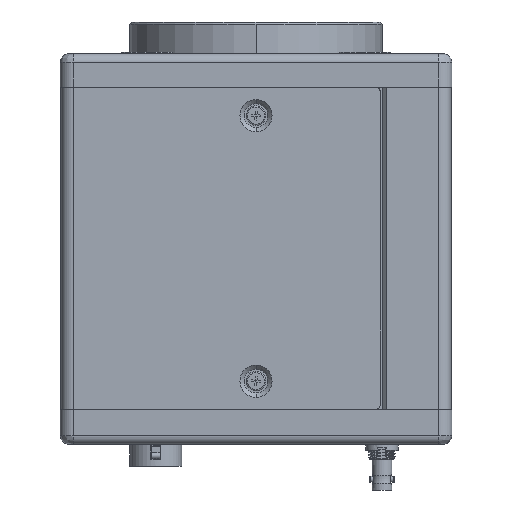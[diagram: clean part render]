
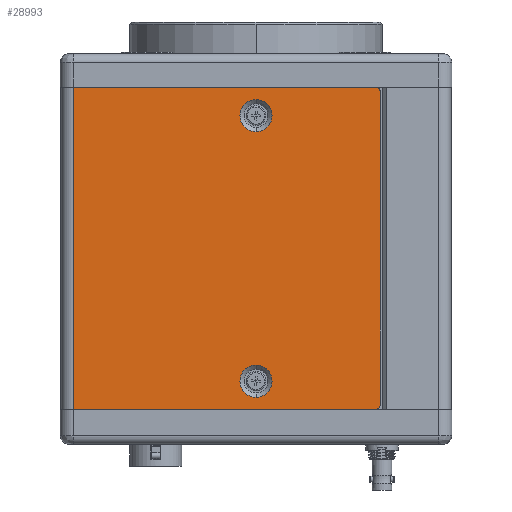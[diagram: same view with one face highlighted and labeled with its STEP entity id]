
A CAD part, left-side view. The second image highlights one B-rep face of the part: STEP entity #28993.
In plain terms, the highlighted planar face has unit normal (-1, 0, 0).
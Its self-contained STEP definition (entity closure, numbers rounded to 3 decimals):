
#6237=DIRECTION('',(0.,0.,-1.));
#6238=VECTOR('',#6237,74.);
#6239=CARTESIAN_POINT('',(-44.8,42.,82.));
#6240=LINE('',#6239,#6238);
#6245=CARTESIAN_POINT('',(-44.8,-27.5,9.));
#6246=DIRECTION('',(1.,0.,0.));
#6247=DIRECTION('',(0.,-1.,0.));
#6248=AXIS2_PLACEMENT_3D('',#6245,#6246,#6247);
#6250=DIRECTION('',(0.,1.,0.));
#6251=VECTOR('',#6250,69.5);
#6252=CARTESIAN_POINT('',(-44.8,-27.5,8.));
#6253=LINE('',#6252,#6251);
#6254=DIRECTION('',(0.,-1.,0.));
#6255=VECTOR('',#6254,69.5);
#6256=CARTESIAN_POINT('',(-44.8,42.,82.));
#6257=LINE('',#6256,#6255);
#6258=CARTESIAN_POINT('',(-44.8,-27.5,81.));
#6259=DIRECTION('',(1.,0.,0.));
#6260=DIRECTION('',(0.,0.,1.));
#6261=AXIS2_PLACEMENT_3D('',#6258,#6259,#6260);
#6263=CARTESIAN_POINT('',(-44.8,0.,75.5));
#6264=DIRECTION('',(-1.,0.,0.));
#6265=DIRECTION('',(0.,0.,1.));
#6266=AXIS2_PLACEMENT_3D('',#6263,#6264,#6265);
#6268=CARTESIAN_POINT('',(-44.8,0.,75.5));
#6269=DIRECTION('',(-1.,0.,0.));
#6270=DIRECTION('',(0.,0.,-1.));
#6271=AXIS2_PLACEMENT_3D('',#6268,#6269,#6270);
#6273=CARTESIAN_POINT('',(-44.8,0.,14.5));
#6274=DIRECTION('',(-1.,0.,0.));
#6275=DIRECTION('',(0.,0.,1.));
#6276=AXIS2_PLACEMENT_3D('',#6273,#6274,#6275);
#6278=CARTESIAN_POINT('',(-44.8,0.,14.5));
#6279=DIRECTION('',(-1.,0.,0.));
#6280=DIRECTION('',(0.,0.,-1.));
#6281=AXIS2_PLACEMENT_3D('',#6278,#6279,#6280);
#6291=DIRECTION('',(0.,0.,-1.));
#6292=VECTOR('',#6291,72.);
#6293=CARTESIAN_POINT('',(-44.8,-28.5,81.));
#6294=LINE('',#6293,#6292);
#16442=CARTESIAN_POINT('',(-44.8,42.,82.));
#16443=VERTEX_POINT('',#16442);
#16444=CARTESIAN_POINT('',(-44.8,-27.5,82.));
#16445=VERTEX_POINT('',#16444);
#16498=CARTESIAN_POINT('',(-44.8,42.,8.));
#16499=VERTEX_POINT('',#16498);
#16500=CARTESIAN_POINT('',(-44.8,-27.5,8.));
#16501=VERTEX_POINT('',#16500);
#16506=CARTESIAN_POINT('',(-44.8,-28.5,9.));
#16507=VERTEX_POINT('',#16506);
#16508=CARTESIAN_POINT('',(-44.8,-28.5,81.));
#16509=VERTEX_POINT('',#16508);
#16510=CARTESIAN_POINT('',(-44.8,0.,79.2));
#16511=CARTESIAN_POINT('',(-44.8,0.,71.8));
#16512=VERTEX_POINT('',#16510);
#16513=VERTEX_POINT('',#16511);
#16514=CARTESIAN_POINT('',(-44.8,0.,18.2));
#16515=CARTESIAN_POINT('',(-44.8,0.,10.8));
#16516=VERTEX_POINT('',#16514);
#16517=VERTEX_POINT('',#16515);
#28965=CARTESIAN_POINT('',(-44.8,6.75,45.));
#28966=DIRECTION('',(1.,0.,0.));
#28967=DIRECTION('',(0.,1.,0.));
#28968=AXIS2_PLACEMENT_3D('',#28965,#28966,#28967);
#28969=PLANE('',#28968);
#28971=ORIENTED_EDGE('',*,*,#28970,.T.);
#28972=ORIENTED_EDGE('',*,*,#18576,.T.);
#28973=ORIENTED_EDGE('',*,*,#28950,.F.);
#28974=ORIENTED_EDGE('',*,*,#18666,.T.);
#28976=ORIENTED_EDGE('',*,*,#28975,.T.);
#28978=ORIENTED_EDGE('',*,*,#28977,.T.);
#28979=EDGE_LOOP('',(#28971,#28972,#28973,#28974,#28976,#28978));
#28980=FACE_OUTER_BOUND('',#28979,.F.);
#28982=ORIENTED_EDGE('',*,*,#28981,.T.);
#28984=ORIENTED_EDGE('',*,*,#28983,.T.);
#28985=EDGE_LOOP('',(#28982,#28984));
#28986=FACE_BOUND('',#28985,.F.);
#28988=ORIENTED_EDGE('',*,*,#28987,.T.);
#28990=ORIENTED_EDGE('',*,*,#28989,.T.);
#28991=EDGE_LOOP('',(#28988,#28990));
#28992=FACE_BOUND('',#28991,.F.);
#6249=CIRCLE('',#6248,1.);
#6262=CIRCLE('',#6261,1.);
#6267=CIRCLE('',#6266,3.7);
#6272=CIRCLE('',#6271,3.7);
#6277=CIRCLE('',#6276,3.7);
#6282=CIRCLE('',#6281,3.7);
#18576=EDGE_CURVE('',#16501,#16499,#6253,.T.);
#18666=EDGE_CURVE('',#16443,#16445,#6257,.T.);
#28950=EDGE_CURVE('',#16443,#16499,#6240,.T.);
#28970=EDGE_CURVE('',#16507,#16501,#6249,.T.);
#28975=EDGE_CURVE('',#16445,#16509,#6262,.T.);
#28977=EDGE_CURVE('',#16509,#16507,#6294,.T.);
#28981=EDGE_CURVE('',#16512,#16513,#6267,.T.);
#28983=EDGE_CURVE('',#16513,#16512,#6272,.T.);
#28987=EDGE_CURVE('',#16516,#16517,#6277,.T.);
#28989=EDGE_CURVE('',#16517,#16516,#6282,.T.);
#28993=ADVANCED_FACE('',(#28980,#28986,#28992),#28969,.F.);
